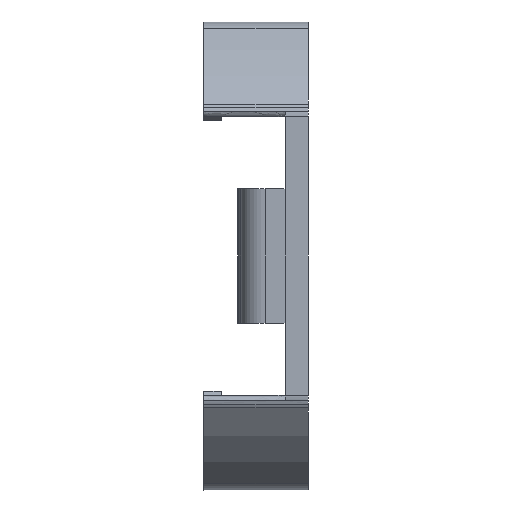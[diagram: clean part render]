
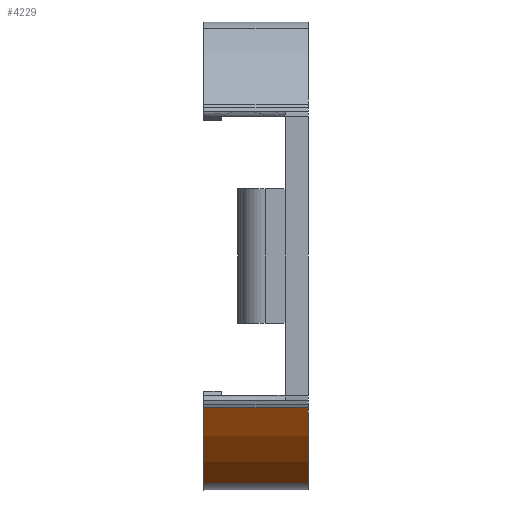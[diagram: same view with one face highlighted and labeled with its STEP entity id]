
A CAD part, left-side view. The second image highlights one B-rep face of the part: STEP entity #4229.
In plain terms, the highlighted cylindrical face has radius 23.757 mm (diameter 47.514 mm), a partial arc.
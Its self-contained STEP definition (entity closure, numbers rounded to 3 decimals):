
#279 = ORIENTED_EDGE ( 'NONE', *, *, #2856, .T. ) ;
#290 = EDGE_CURVE ( 'NONE', #2218, #4201, #2763, .T. ) ;
#321 = CARTESIAN_POINT ( 'NONE',  ( -19.826, 2., -13.089 ) ) ;
#387 = AXIS2_PLACEMENT_3D ( 'NONE', #4346, #882, #2269 ) ;
#882 = DIRECTION ( 'NONE',  ( 0., -1., 0. ) ) ;
#1445 = DIRECTION ( 'NONE',  ( 0., 0., -1. ) ) ;
#1530 = CARTESIAN_POINT ( 'NONE',  ( -13.417, 2., -19.605 ) ) ;
#1596 = CARTESIAN_POINT ( 'NONE',  ( 0., 0., 0. ) ) ;
#1704 = CIRCLE ( 'NONE', #4041, 23.757 ) ;
#1734 = CYLINDRICAL_SURFACE ( 'NONE', #3014, 23.757 ) ;
#1997 = CIRCLE ( 'NONE', #387, 23.757 ) ;
#2118 = CARTESIAN_POINT ( 'NONE',  ( 0., 2., 0. ) ) ;
#2128 = ORIENTED_EDGE ( 'NONE', *, *, #290, .F. ) ;
#2218 = VERTEX_POINT ( 'NONE', #3537 ) ;
#2269 = DIRECTION ( 'NONE',  ( 0., 0., 1. ) ) ;
#2305 = DIRECTION ( 'NONE',  ( 0., -1., 0. ) ) ;
#2360 = VERTEX_POINT ( 'NONE', #3753 ) ;
#2547 = ORIENTED_EDGE ( 'NONE', *, *, #2999, .F. ) ;
#2605 = EDGE_LOOP ( 'NONE', ( #2547, #2128, #4454, #279 ) ) ;
#2711 = CARTESIAN_POINT ( 'NONE',  ( -19.826, 0., -13.089 ) ) ;
#2763 = LINE ( 'NONE', #321, #3154 ) ;
#2856 = EDGE_CURVE ( 'NONE', #2885, #2360, #3263, .T. ) ;
#2885 = VERTEX_POINT ( 'NONE', #2946 ) ;
#2946 = CARTESIAN_POINT ( 'NONE',  ( -13.417, 9., -19.605 ) ) ;
#2999 = EDGE_CURVE ( 'NONE', #4201, #2360, #1704, .T. ) ;
#3014 = AXIS2_PLACEMENT_3D ( 'NONE', #2118, #4488, #1445 ) ;
#3104 = FACE_OUTER_BOUND ( 'NONE', #2605, .T. ) ;
#3154 = VECTOR ( 'NONE', #3841, 1000. ) ;
#3263 = LINE ( 'NONE', #1530, #3747 ) ;
#3537 = CARTESIAN_POINT ( 'NONE',  ( -19.826, 9., -13.089 ) ) ;
#3698 = DIRECTION ( 'NONE',  ( 0., 0., 1. ) ) ;
#3747 = VECTOR ( 'NONE', #4305, 1000. ) ;
#3753 = CARTESIAN_POINT ( 'NONE',  ( -13.417, 0., -19.605 ) ) ;
#3759 = EDGE_CURVE ( 'NONE', #2218, #2885, #1997, .T. ) ;
#3841 = DIRECTION ( 'NONE',  ( 0., -1., 0. ) ) ;
#4041 = AXIS2_PLACEMENT_3D ( 'NONE', #1596, #2305, #3698 ) ;
#4201 = VERTEX_POINT ( 'NONE', #2711 ) ;
#4229 = ADVANCED_FACE ( 'NONE', ( #3104 ), #1734, .T. ) ;
#4305 = DIRECTION ( 'NONE',  ( 0., -1., 0. ) ) ;
#4346 = CARTESIAN_POINT ( 'NONE',  ( 0., 9., 0. ) ) ;
#4454 = ORIENTED_EDGE ( 'NONE', *, *, #3759, .T. ) ;
#4488 = DIRECTION ( 'NONE',  ( 0., -1., 0. ) ) ;
